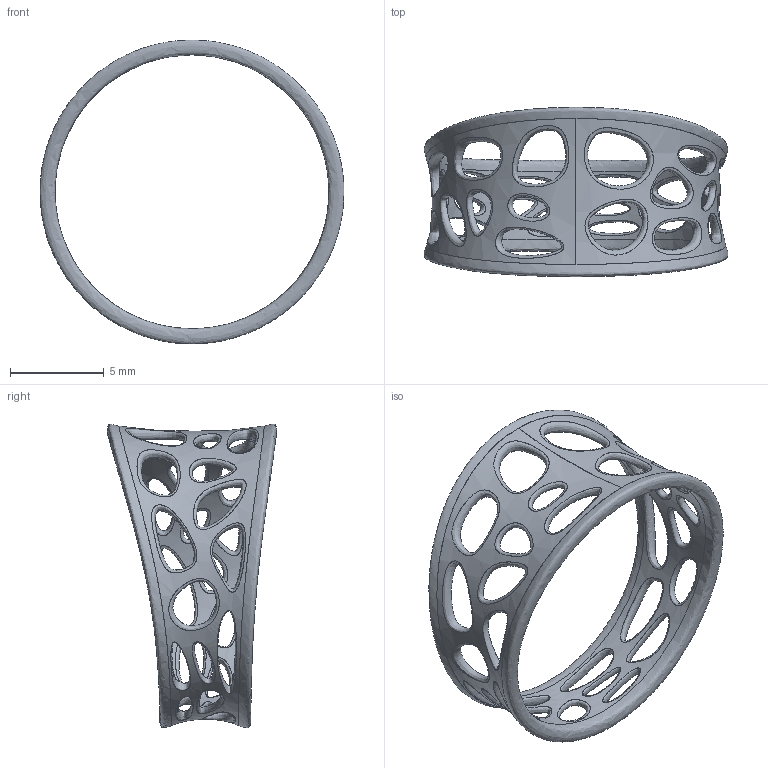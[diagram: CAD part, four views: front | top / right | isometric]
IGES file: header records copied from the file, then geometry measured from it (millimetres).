
Global section: file name: C:\Users\watanabe\Desktop\; native system: Rhinoceros ( Aug 10 2015 ); preprocessor: Trout Lake IGES 012 Aug 10 2015; date: 160907.092230; units: millimetre
Bounding box: 16.23 x 9.05 x 16.23 mm (x, y, z)
Surface area: 555.9 mm2 (no closed solid volume)
Topology: 0 solids, 0 shells, 34 faces, 7788 edges, 7752 vertices
Faces by surface type: bspline 34
